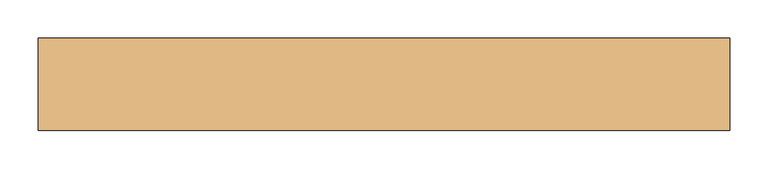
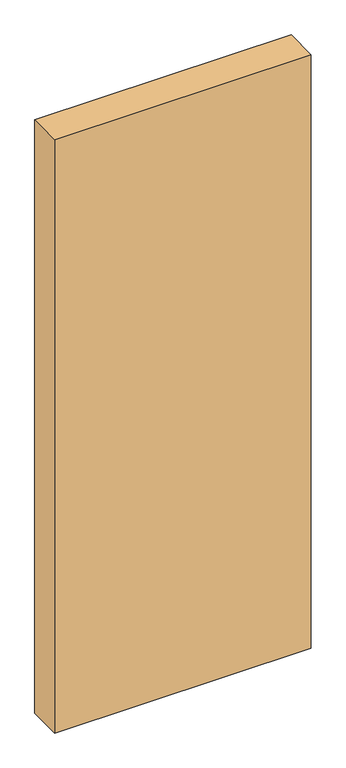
"""IFC4 building model written with IfcOpenShell, lengths in millimetres: door geometry, Dr_Проем-Простой : ДВ."""

import ifcopenshell
import ifcopenshell.guid

model = None  # the IFC model being written
_history = None  # IfcOwnerHistory: only IFC2X3 demands one
_inside = {}  # id of a spatial element -> (the spatial element, [elements in it])
_under = {}  # id of a project, library or spatial element -> (it, [spatial elements below it])
_declared = {}  # id of a project -> (the project, [libraries it declares])
_typed = {}  # id of a type object -> (the type object, [elements of that type])
_made_of = {}  # id of a material, layer set ... -> (it, [elements and type objects made of it])


def new_model(schema):
    """Start an empty IFC model of exactly this schema.

    Asked for "IFC4X3", IfcOpenShell would pick the latest addendum, in which some entities
    have other attributes; the version numbers below select the first issue.
    IFC2X3 requires an IfcOwnerHistory on every rooted entity: one is made here for all.
    """
    global model, _history
    if schema == "IFC4X3":
        model = ifcopenshell.file(schema_version=(4, 3, 0, 0))
    else:
        model = ifcopenshell.file(schema=schema)
    _inside.clear()
    _under.clear()
    _declared.clear()
    _typed.clear()
    _made_of.clear()
    _history = None
    if model.schema == "IFC2X3":
        org = make("IfcOrganization", Name="unknown")
        user = make(
            "IfcPersonAndOrganization",
            ThePerson=make("IfcPerson", FamilyName="unknown"),
            TheOrganization=org,
        )
        app = make(
            "IfcApplication",
            ApplicationDeveloper=org,
            Version="unknown",
            ApplicationFullName="unknown",
            ApplicationIdentifier="unknown",
        )
        _history = make(
            "IfcOwnerHistory",
            OwningUser=user,
            OwningApplication=app,
            ChangeAction="ADDED",
            CreationDate=0,
        )
    return model


def make(cls, **values):
    """One entity of the class cls with the attributes given. An attribute that is None is left unset."""
    return model.create_entity(
        cls, **{name: value for name, value in values.items() if value is not None}
    )


def rooted(cls, **values):
    """An entity with a GlobalId (a new one), such as an element, a storey or a relation."""
    return make(cls, GlobalId=ifcopenshell.guid.new(), OwnerHistory=_history, **values)


def si_unit(unit_type, name, prefix=None):
    """IfcSIUnit, for example si_unit("LENGTHUNIT", "METRE", prefix="MILLI")."""
    return make("IfcSIUnit", UnitType=unit_type, Prefix=prefix, Name=name)


def assignment(units):
    """IfcUnitAssignment: the units of a project."""
    return None if units is None else make("IfcUnitAssignment", Units=units)


def point(xyz):
    """IfcCartesianPoint."""
    return None if xyz is None else make("IfcCartesianPoint", Coordinates=xyz)


def direction(xyz):
    """IfcDirection."""
    return None if xyz is None else make("IfcDirection", DirectionRatios=xyz)


def frame(location, z_axis=None, x_axis=None):
    """IfcAxis2Placement3D, a coordinate frame: its origin and axes. An axis left out is left unset."""
    return make(
        "IfcAxis2Placement3D",
        Location=point(location),
        Axis=direction(z_axis),
        RefDirection=direction(x_axis),
    )


def origin():
    """The frame at (0, 0, 0) with its axes left unset."""
    return frame((0.0, 0.0, 0.0))


def place(relative_to, where):
    """IfcLocalPlacement: puts the frame where relative to a parent placement (None: the world)."""
    return make(
        "IfcLocalPlacement", PlacementRelTo=relative_to, RelativePlacement=where
    )


def context(
    kind, dimensions, precision=None, world=None, true_north=None, identifier=None
):
    """IfcGeometricRepresentationContext, for example the 3D "Model" context."""
    return make(
        "IfcGeometricRepresentationContext",
        ContextIdentifier=identifier,
        ContextType=kind,
        CoordinateSpaceDimension=dimensions,
        Precision=precision,
        WorldCoordinateSystem=world,
        TrueNorth=true_north,
    )


def project(units=None, contexts=None):
    """IfcProject with its units and contexts."""
    return rooted(
        "IfcProject",
        Name="project",
        RepresentationContexts=contexts,
        UnitsInContext=assignment(units),
    )


def spatial(cls, under=None, at=None, **own):
    """A site, building, storey or space (cls), placed at a placement, below another one or the project."""
    s = rooted(cls, ObjectPlacement=at, **own)
    if under is not None:
        _under.setdefault(under.id(), (under, []))[1].append(s)
    return s


def polyline(points):
    """IfcPolyline through the points."""
    return make("IfcPolyline", Points=[point(p) for p in points])


def outline(outer, holes=None, kind="AREA"):
    """IfcArbitraryClosedProfileDef: a profile drawn as a closed curve; with holes, ...WithVoids."""
    if holes is None:
        return make("IfcArbitraryClosedProfileDef", ProfileType=kind, OuterCurve=outer)
    return make(
        "IfcArbitraryProfileDefWithVoids",
        ProfileType=kind,
        OuterCurve=outer,
        InnerCurves=holes,
    )


def extrude(swept, where, along, depth):
    """IfcExtrudedAreaSolid: the profile swept, set in the frame where, extruded along a direction by depth."""
    return make(
        "IfcExtrudedAreaSolid",
        SweptArea=swept,
        Position=where,
        ExtrudedDirection=direction(along),
        Depth=depth,
    )


def shape(context_of_items, identifier, shape_type, items):
    """IfcShapeRepresentation: the items that make up one representation, for example the "Body"."""
    return make(
        "IfcShapeRepresentation",
        ContextOfItems=context_of_items,
        RepresentationIdentifier=identifier,
        RepresentationType=shape_type,
        Items=items,
    )


def source(mapping_origin, context_of_items, identifier, shape_type, items):
    """IfcRepresentationMap: a shape defined once, which mapped items show again and again."""
    return make(
        "IfcRepresentationMap",
        MappingOrigin=mapping_origin,
        MappedRepresentation=shape(context_of_items, identifier, shape_type, items),
    )


def transform(
    local_origin,
    x_axis=None,
    y_axis=None,
    z_axis=None,
    scale=None,
    scale2=None,
    scale3=None,
    uniform=True,
):
    """IfcCartesianTransformationOperator3D, or its non-uniform kind. x_axis, y_axis, z_axis: its Axis1, 2, 3."""
    if uniform:
        return make(
            "IfcCartesianTransformationOperator3D",
            Axis1=direction(x_axis),
            Axis2=direction(y_axis),
            LocalOrigin=point(local_origin),
            Scale=scale,
            Axis3=direction(z_axis),
        )
    return make(
        "IfcCartesianTransformationOperator3DnonUniform",
        Axis1=direction(x_axis),
        Axis2=direction(y_axis),
        LocalOrigin=point(local_origin),
        Scale=scale,
        Axis3=direction(z_axis),
        Scale2=scale2,
        Scale3=scale3,
    )


def mapped(mapping_source, mapping_target):
    """IfcMappedItem: shows the shape of a source again, moved by a transform."""
    return make(
        "IfcMappedItem", MappingSource=mapping_source, MappingTarget=mapping_target
    )


def made_of(thing, what):
    """Note that an element or type object is made of a material, layer set ...; save() writes the relation."""
    if what is not None:
        _made_of.setdefault(what.id(), (what, []))[1].append(thing)
    return thing


def element(
    cls,
    number,
    at=None,
    inside=None,
    cuts=None,
    type_object=None,
    material=None,
    context=None,
    identifier="Body",
    shape_type=None,
    held_by="IfcProductDefinitionShape",
    body=None,
    shapes=None,
    **own,
):
    """One element of the class cls, such as IfcWall. Its Tag is "e" and its number.

    at: its placement. inside: the storey or other place that contains it. cuts: it is an
    opening in that element (IfcRelVoidsElement). A single representation is given by context,
    identifier, shape_type and body (its items); several are given by shapes. held_by: the class
    of the entity that holds the representations. save() writes the other relations.
    """
    e = rooted(cls, Tag="e%d" % number, ObjectPlacement=at, **own)
    if body is not None:
        shapes = [shape(context, identifier, shape_type, body)]
    if shapes is not None:
        e.Representation = make(held_by, Representations=shapes)
    if inside is not None:
        _inside.setdefault(inside.id(), (inside, []))[1].append(e)
    if cuts is not None:
        rooted(
            "IfcRelVoidsElement", RelatingBuildingElement=cuts, RelatedOpeningElement=e
        )
    if type_object is not None:
        _typed.setdefault(type_object.id(), (type_object, []))[1].append(e)
    return made_of(e, material)


def aggregate(whole, parts):
    """IfcRelAggregates: a whole, such as a stair, and the parts it consists of."""
    return rooted("IfcRelAggregates", RelatingObject=whole, RelatedObjects=parts)


def save(model, path):
    """Write the relations noted so far, then the file.

    IfcRelAggregates (storeys below a building ...), IfcRelContainedInSpatialStructure (elements
    in a storey), IfcRelDefinesByType, IfcRelAssociatesMaterial and IfcRelDeclares: one each for
    every whole, place, type object, material and project.
    """
    for whole, parts in _under.values():
        aggregate(whole, parts)
    for where, things in _inside.values():
        rooted(
            "IfcRelContainedInSpatialStructure",
            RelatedElements=things,
            RelatingStructure=where,
        )
    for kind, things in _typed.values():
        rooted("IfcRelDefinesByType", RelatedObjects=things, RelatingType=kind)
    for what, things in _made_of.values():
        rooted("IfcRelAssociatesMaterial", RelatedObjects=things, RelatingMaterial=what)
    for by, libraries in _declared.values():
        rooted("IfcRelDeclares", RelatingContext=by, RelatedDefinitions=libraries)
    model.write(path)


def door_d7ad1108(model_context):
    return source(origin(), model_context, "Body", "SweptSolid", [
        extrude(outline(polyline([(655.3230163, 60.0), (655.3230163, -60.0), (-244.6769837, -60.0), (-244.6769837, 60.0), (655.3230163, 60.0)])), frame((0.0, 0.0, -100.0), z_axis=(0.0, 0.0, 1.0), x_axis=(1.0, 0.0, 0.0)), (0.0, 0.0, 1.0), 2200.0),
    ])


if __name__ == "__main__":
    model = new_model("IFC4")
    model_context = context("Model", 3, world=origin())
    ifc_project = project(units=[si_unit("LENGTHUNIT", "METRE", prefix="MILLI")], contexts=[model_context])
    site = spatial("IfcSite", under=ifc_project)
    building = spatial("IfcBuilding", under=site)
    placement = place(None, origin())
    door_shape = door_d7ad1108(model_context)
    element("IfcDoor", 1, ObjectType="Dr_Проем-Простой : ДВ", at=placement, inside=building, context=model_context, shape_type="MappedRepresentation", body=[
        mapped(door_shape, transform((0.0, 0.0, 0.0), x_axis=(1.0, 0.0, 0.0), y_axis=(0.0, 1.0, 0.0), z_axis=(0.0, 0.0, 1.0))),
    ])
    save(model, "model.ifc")
